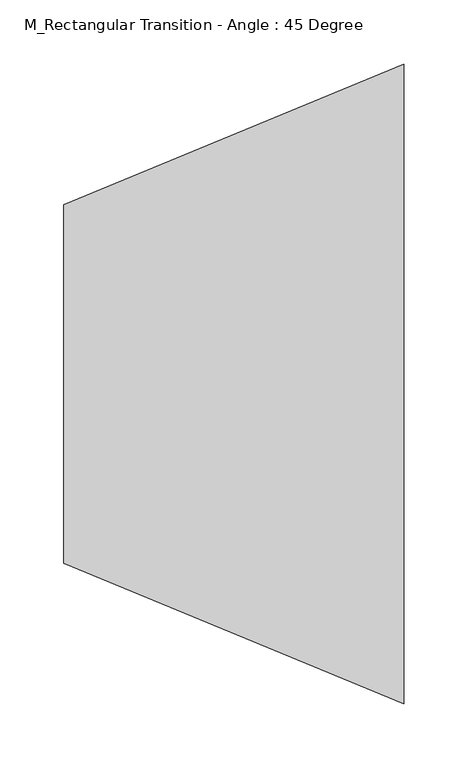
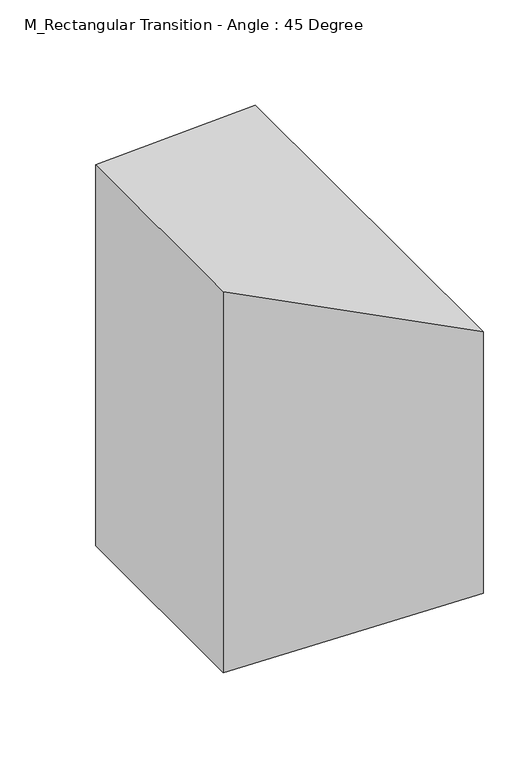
"""IFC4 building model written with IfcOpenShell, lengths in millimetres: duct fitting geometry, M_Rectangular Transition - Angle : 45 Degree."""

from ifc_helpers import new_model, si_unit, origin, place, context, project, spatial, faceted_brep, source, transform, mapped, element, save


def m_rectangular_transition_angle_45_degree_57af4c4f(model_context):
    return source(origin(), model_context, "Body", "Brep", [
        faceted_brep([(265.5634919, -250.0, 175.0), (265.5634919, -250.0, -175.0), (265.5634919, 250.0, -175.0), (265.5634919, 250.0, 175.0), (0.0, -140.0, 255.0), (0.0, 140.0, 255.0), (0.0, 140.0, -255.0), (0.0, -140.0, -255.0)], [[[0, 1, 2, 3]], [[4, 5, 6, 7]], [[4, 7, 1, 0]], [[7, 6, 2, 1]], [[6, 5, 3, 2]], [[5, 4, 0, 3]]]),
    ])


if __name__ == "__main__":
    model = new_model("IFC4")
    model_context = context("Model", 3, world=origin())
    ifc_project = project(units=[si_unit("LENGTHUNIT", "METRE", prefix="MILLI")], contexts=[model_context])
    site = spatial("IfcSite", under=ifc_project)
    building = spatial("IfcBuilding", under=site)
    placement = place(None, origin())
    m_rectangular_transition_angle_45_degree_shape = m_rectangular_transition_angle_45_degree_57af4c4f(model_context)
    element("IfcDuctFitting", 1, ObjectType="M_Rectangular Transition - Angle : 45 Degree", at=placement, inside=building, context=model_context, shape_type="MappedRepresentation", body=[
        mapped(m_rectangular_transition_angle_45_degree_shape, transform((0.0, 0.0, 0.0), x_axis=(1.0, 0.0, 0.0), y_axis=(0.0, 1.0, 0.0), z_axis=(0.0, 0.0, 1.0))),
    ])
    save(model, "model.ifc")
